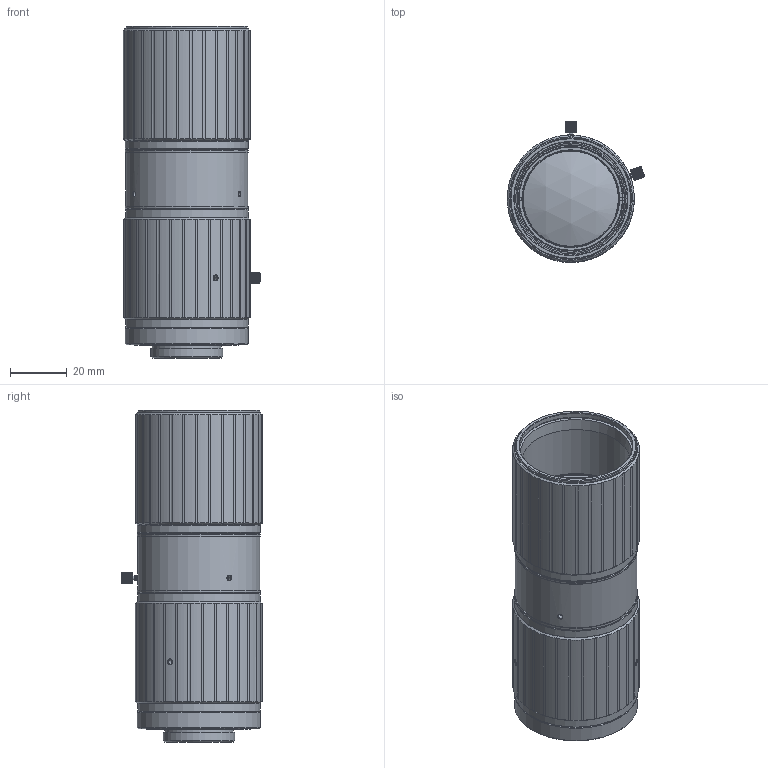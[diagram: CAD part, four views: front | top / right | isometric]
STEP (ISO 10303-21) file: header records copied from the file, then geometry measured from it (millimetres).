
FILE_DESCRIPTION (( 'STEP AP203' ), '1' );
FILE_NAME ('MJ9943100120軞蚾.STEP', '2024-01-16T09:18:28', ( '' ), ( '' ), 'SwSTEP 2.0', 'SolidWorks 2018', '' );
FILE_SCHEMA (( 'CONFIG_CONTROL_DESIGN' ));
Length unit declared in the file: millimetre
Products named in the file (1): MJ9943100120軞蚾
Bounding box: 48.58 x 49.8 x 117.4 mm (x, y, z)
Volume: 76254.4 mm3; surface area: 81838.9 mm2
Topology: 15 solids, 15 shells, 1223 faces, 3272 edges, 2138 vertices
Faces by surface type: plane 533, cylinder 382, cone 214, bspline 84, torus 6, sphere 4
Full cylindrical faces by diameter (mm): 1 x1, 1.25 x4, 1.5 x2, 1.6 x9, 1.8 x6, 2.5 x3, 3.1 x3, 3.45 x3, 17.962 x1, 19.328 x1, 20.58 x1, 21.865 x1, 21.9 x2, 22 x1, 22.465 x1, 24.1 x1, 24.34 x1, 24.8 x1, 25 x2, 25.1 x1, 25.4 x1, 25.6 x1, 25.8 x1, 25.9 x1, 26 x1, 27.2 x1, 29.2 x1, 33.693 x1, 33.7 x1, 33.8 x1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
Entity records: 60740 total; most frequent: CARTESIAN_POINT 33951, ORIENTED_EDGE 5886, DIRECTION 4700, EDGE_CURVE 2943, VERTEX_POINT 2079, AXIS2_PLACEMENT_3D 1987, EDGE_LOOP 1596, FACE_OUTER_BOUND 1322
